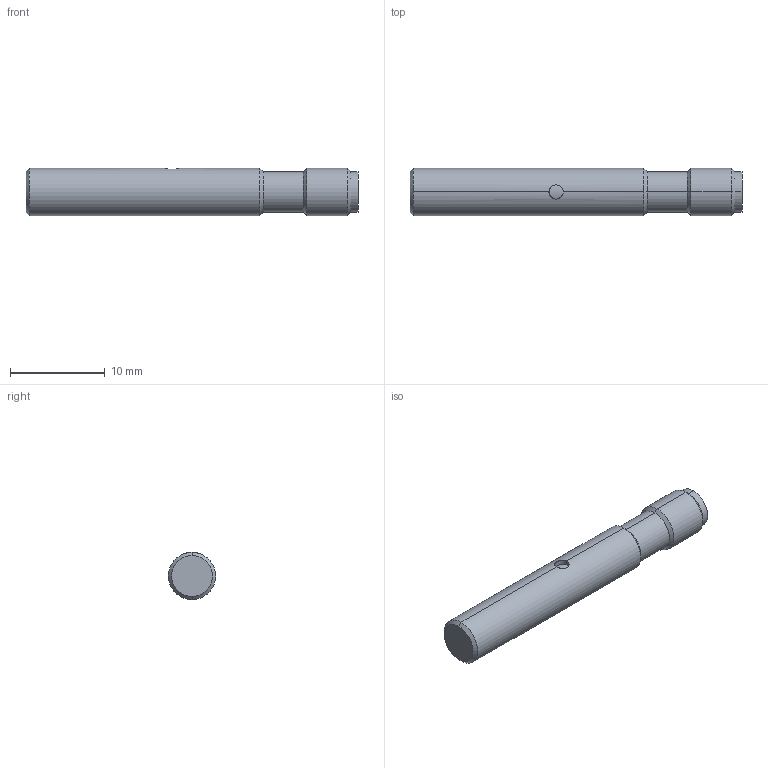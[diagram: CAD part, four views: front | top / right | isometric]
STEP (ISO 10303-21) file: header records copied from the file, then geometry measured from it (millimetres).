
FILE_DESCRIPTION (( 'STEP AP214' ), '1' );
FILE_NAME ('CAD (step) INS-S-M5.STEP', '2022-11-17T14:25:48', ( '' ), ( '' ), 'SwSTEP 2.0', 'SolidWorks 2019', '' );
FILE_SCHEMA (( 'AUTOMOTIVE_DESIGN' ));
Length unit declared in the file: millimetre
Products named in the file (1): CAD (step) INS-S-M5
Bounding box: 35 x 5 x 5 mm (x, y, z)
Volume: 619.9 mm3; surface area: 652.2 mm2
Topology: 1 solids, 1 shells, 39 faces, 80 edges, 48 vertices
Faces by surface type: cylinder 21, plane 10, cone 8
Entity records: 1132 total; most frequent: CARTESIAN_POINT 226, DIRECTION 196, ORIENTED_EDGE 160, AXIS2_PLACEMENT_3D 80, EDGE_CURVE 80, VERTEX_POINT 48, EDGE_LOOP 44, CIRCLE 40
